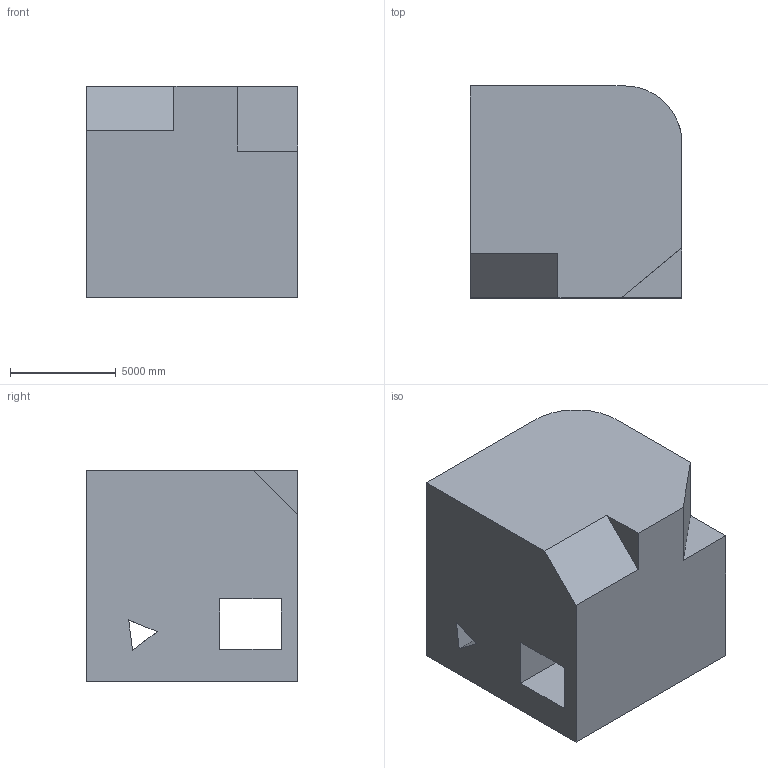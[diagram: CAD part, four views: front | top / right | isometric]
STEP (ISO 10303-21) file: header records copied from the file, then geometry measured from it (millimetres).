
FILE_DESCRIPTION (( 'STEP AP203' ), '1' );
FILE_NAME ('1415.STEP', '2022-08-18T14:20:29', ( 'user' ), ( '' ), 'SwSTEP 2.0', 'SolidWorks 2021', '' );
FILE_SCHEMA (( 'CONFIG_CONTROL_DESIGN' ));
Length unit declared in the file: centimetre
Products named in the file (1): 1415
Bounding box: 10000 x 10000 x 10000 mm (x, y, z)
Volume: 886916344533.8 mm3; surface area: 709402787.8 mm2
Topology: 1 solids, 1 shells, 18 faces, 51 edges, 34 vertices
Faces by surface type: plane 17, cylinder 1
Entity records: 662 total; most frequent: CARTESIAN_POINT 113, ORIENTED_EDGE 102, DIRECTION 88, EDGE_CURVE 51, VECTOR 46, LINE 46, VERTEX_POINT 34, AXIS2_PLACEMENT_3D 21
